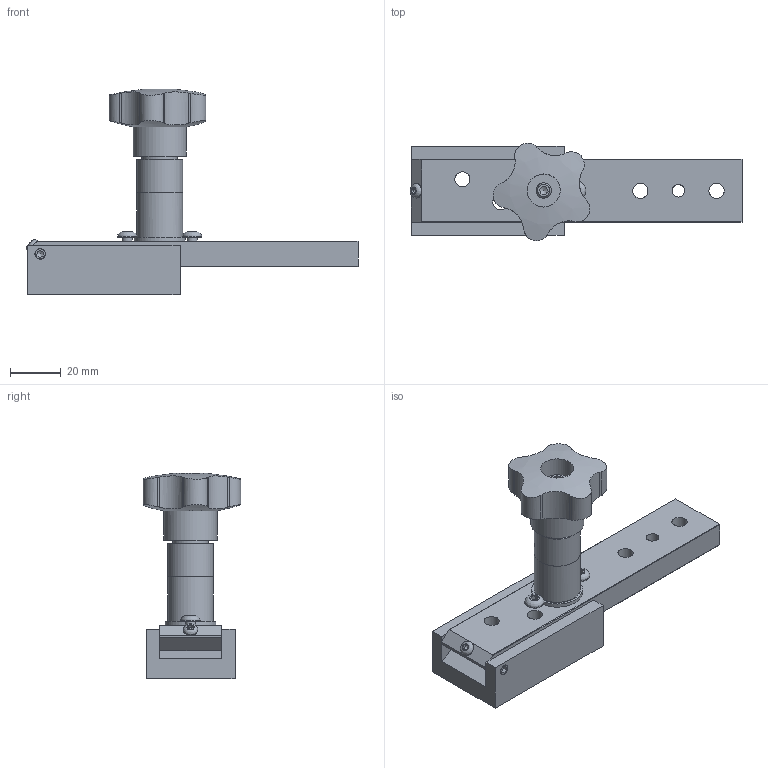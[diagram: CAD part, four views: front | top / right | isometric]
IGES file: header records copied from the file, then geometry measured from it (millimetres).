
Global section: file name: 255.00; native system: Autodesk Inventor 2021; preprocessor: unknown; author: APto; date: 20210309.134650; units: millimetre
Bounding box: 130.58 x 38.33 x 80.71 mm (x, y, z)
Volume: 79367.5 mm3; surface area: 34922.5 mm2
Topology: 14 solids, 14 shells, 204 faces, 555 edges, 391 vertices
Faces by surface type: bspline 204
